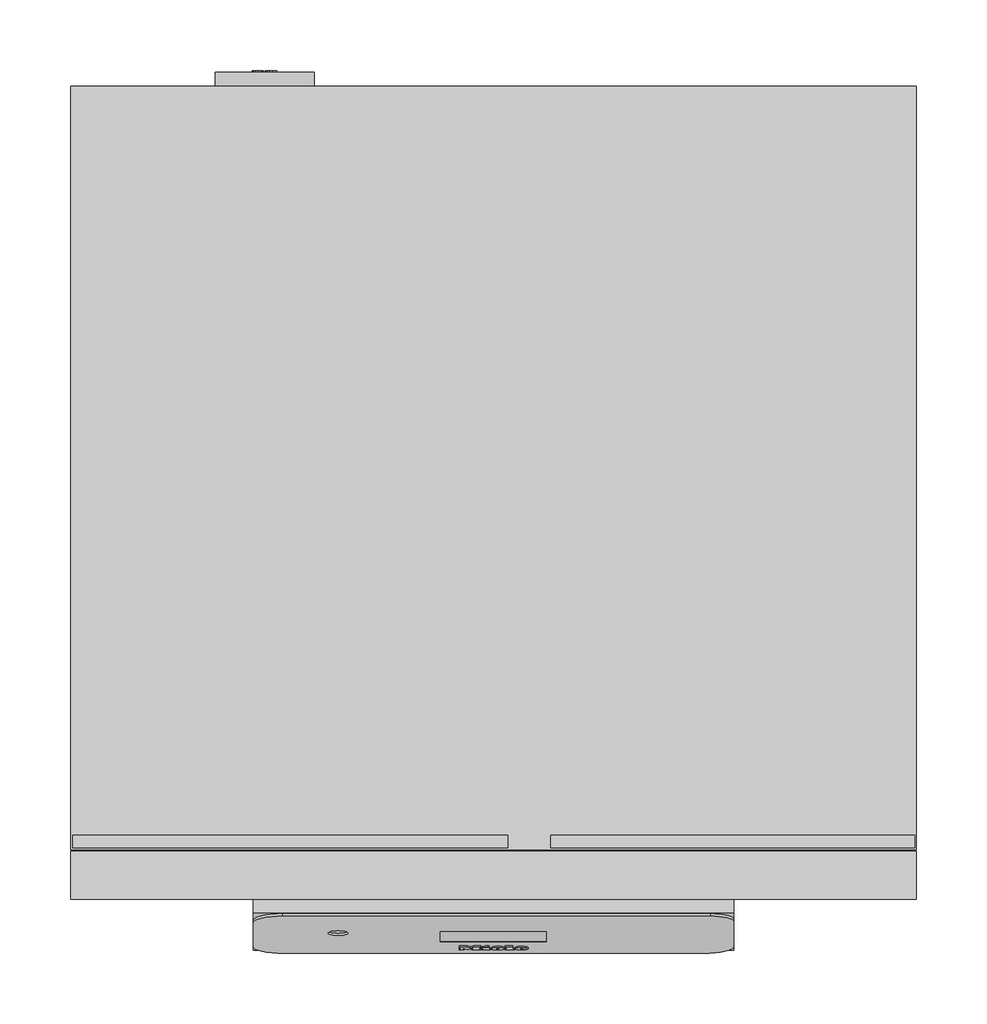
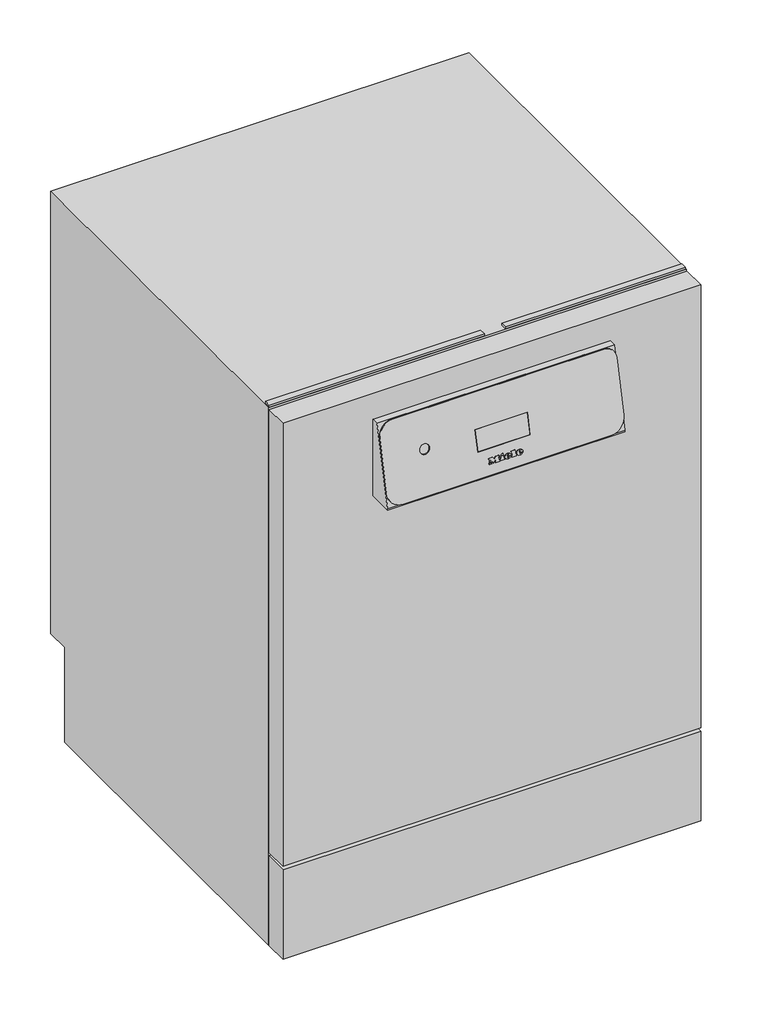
# Not in any storey: 1 proxy.
"""IFC4 building model written with IfcOpenShell, lengths in millimetres."""

from ifc_helpers import new_model, si_unit, origin, place, context, project, spatial, transform, mapped, element, save
from components import specialty_equipment_58bb6e74

model = new_model("IFC4")

# Units and contexts
model_context = context("Model", 3, world=origin())
ifc_project = project(units=[si_unit("LENGTHUNIT", "METRE", prefix="MILLI")], contexts=[model_context])

# Site, building
site = spatial("IfcSite", under=ifc_project)
building = spatial("IfcBuilding", under=site)

# Proxy
placement = place(None, origin())
specialty_equipment_shape = specialty_equipment_58bb6e74(model_context)
element("IfcBuildingElementProxy", 1, Name="12065630_NWE_PFD401UDOS_SST : 61040185_NWE_12065630_PFD401UDOS_SST", ObjectType="12065630_NWE_PFD401UDOS_SST : 61040185_NWE_12065630_PFD401UDOS_SST", at=placement, inside=building, context=model_context, shape_type="MappedRepresentation", body=[
    mapped(specialty_equipment_shape, transform((0.0, 0.0, 0.0), x_axis=(1.0, 0.0, 0.0), y_axis=(0.0, 1.0, 0.0), z_axis=(0.0, 0.0, 1.0))),
])

save(model, "model.ifc")
